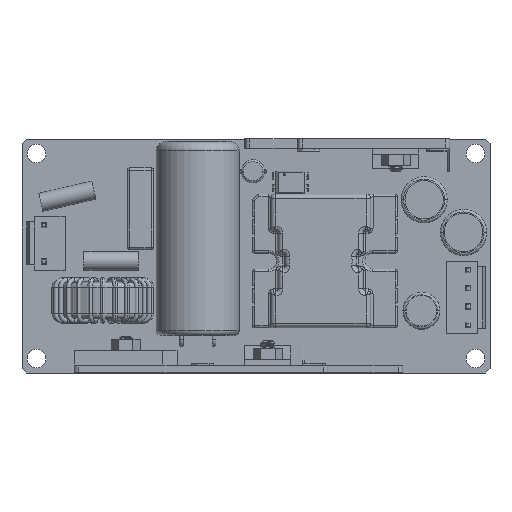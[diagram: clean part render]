
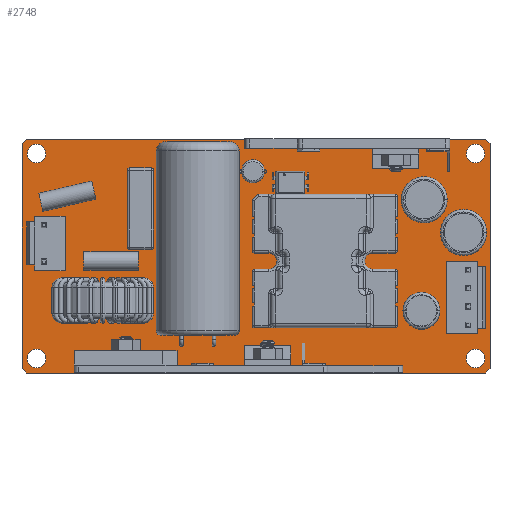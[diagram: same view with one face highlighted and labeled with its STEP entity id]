
A CAD part, top view. The second image highlights one B-rep face of the part: STEP entity #2748.
In plain terms, the highlighted planar face has unit normal (0, 0, 1).
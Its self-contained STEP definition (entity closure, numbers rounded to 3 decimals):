
#2748=ADVANCED_FACE('SPLSRF1',(#6115,#6116,#6117,#6118,#6119),#4235,.T.);
#4235=PLANE('',#24014);
#4824=CIRCLE('',#24006,2.);
#4825=CIRCLE('',#24007,2.);
#4826=CIRCLE('',#24008,2.);
#4827=CIRCLE('',#24009,2.);
#4828=CIRCLE('',#24010,2.);
#4829=CIRCLE('',#24011,2.);
#4830=CIRCLE('',#24012,2.);
#4831=CIRCLE('',#24013,2.);
#6115=FACE_BOUND('',#6245,.T.);
#6116=FACE_BOUND('',#6246,.T.);
#6117=FACE_BOUND('',#6247,.T.);
#6118=FACE_BOUND('',#6248,.T.);
#6119=FACE_BOUND('',#6249,.T.);
#6245=EDGE_LOOP('',(#7815,#7816,#7817,#7818,#7819,#7820,#7821,#7822));
#6246=EDGE_LOOP('',(#7823,#7824));
#6247=EDGE_LOOP('',(#7825,#7826));
#6248=EDGE_LOOP('',(#7827,#7828));
#6249=EDGE_LOOP('',(#7829,#7830));
#7815=ORIENTED_EDGE('',*,*,#16714,.T.);
#7816=ORIENTED_EDGE('',*,*,#16715,.T.);
#7817=ORIENTED_EDGE('',*,*,#16716,.T.);
#7818=ORIENTED_EDGE('',*,*,#16717,.T.);
#7819=ORIENTED_EDGE('',*,*,#16718,.T.);
#7820=ORIENTED_EDGE('',*,*,#16719,.T.);
#7821=ORIENTED_EDGE('',*,*,#16720,.T.);
#7822=ORIENTED_EDGE('',*,*,#16721,.T.);
#7823=ORIENTED_EDGE('',*,*,#16722,.F.);
#7824=ORIENTED_EDGE('',*,*,#16723,.F.);
#7825=ORIENTED_EDGE('',*,*,#16724,.F.);
#7826=ORIENTED_EDGE('',*,*,#16725,.F.);
#7827=ORIENTED_EDGE('',*,*,#16726,.F.);
#7828=ORIENTED_EDGE('',*,*,#16727,.F.);
#7829=ORIENTED_EDGE('',*,*,#16728,.F.);
#7830=ORIENTED_EDGE('',*,*,#16729,.F.);
#14673=VERTEX_POINT('',#34191);
#14674=VERTEX_POINT('',#34192);
#14675=VERTEX_POINT('',#34194);
#14676=VERTEX_POINT('',#34196);
#14677=VERTEX_POINT('',#34198);
#14678=VERTEX_POINT('',#34200);
#14679=VERTEX_POINT('',#34202);
#14680=VERTEX_POINT('',#34204);
#14681=VERTEX_POINT('',#34207);
#14682=VERTEX_POINT('',#34208);
#14683=VERTEX_POINT('',#34211);
#14684=VERTEX_POINT('',#34212);
#14685=VERTEX_POINT('',#34215);
#14686=VERTEX_POINT('',#34216);
#14687=VERTEX_POINT('',#34219);
#14688=VERTEX_POINT('',#34220);
#16714=EDGE_CURVE('LINE1',#14673,#14674,#20143,.T.);
#16715=EDGE_CURVE('LINE8',#14674,#14675,#20144,.T.);
#16716=EDGE_CURVE('LINE7',#14675,#14676,#20145,.T.);
#16717=EDGE_CURVE('LINE6',#14676,#14677,#20146,.T.);
#16718=EDGE_CURVE('LINE5',#14677,#14678,#20147,.T.);
#16719=EDGE_CURVE('LINE4',#14678,#14679,#20148,.T.);
#16720=EDGE_CURVE('LINE3',#14679,#14680,#20149,.T.);
#16721=EDGE_CURVE('LINE2',#14680,#14673,#20150,.T.);
#16722=EDGE_CURVE('ARC1',#14681,#14682,#4824,.T.);
#16723=EDGE_CURVE('ARC2',#14682,#14681,#4825,.T.);
#16724=EDGE_CURVE('ARC3',#14683,#14684,#4826,.T.);
#16725=EDGE_CURVE('ARC4',#14684,#14683,#4827,.T.);
#16726=EDGE_CURVE('ARC5',#14685,#14686,#4828,.T.);
#16727=EDGE_CURVE('ARC6',#14686,#14685,#4829,.T.);
#16728=EDGE_CURVE('ARC7',#14687,#14688,#4830,.T.);
#16729=EDGE_CURVE('ARC8',#14688,#14687,#4831,.T.);
#20143=LINE('',#34190,#22074);
#20144=LINE('',#34193,#22075);
#20145=LINE('',#34195,#22076);
#20146=LINE('',#34197,#22077);
#20147=LINE('',#34199,#22078);
#20148=LINE('',#34201,#22079);
#20149=LINE('',#34203,#22080);
#20150=LINE('',#34205,#22081);
#22074=VECTOR('',#26758,1.);
#22075=VECTOR('',#26759,1.);
#22076=VECTOR('',#26760,1.);
#22077=VECTOR('',#26761,1.);
#22078=VECTOR('',#26762,1.);
#22079=VECTOR('',#26763,1.);
#22080=VECTOR('',#26764,1.);
#22081=VECTOR('',#26765,1.);
#24006=AXIS2_PLACEMENT_3D('',#34206,#26766,#26767);
#24007=AXIS2_PLACEMENT_3D('',#34209,#26768,#26769);
#24008=AXIS2_PLACEMENT_3D('',#34210,#26770,#26771);
#24009=AXIS2_PLACEMENT_3D('',#34213,#26772,#26773);
#24010=AXIS2_PLACEMENT_3D('',#34214,#26774,#26775);
#24011=AXIS2_PLACEMENT_3D('',#34217,#26776,#26777);
#24012=AXIS2_PLACEMENT_3D('',#34218,#26778,#26779);
#24013=AXIS2_PLACEMENT_3D('',#34221,#26780,#26781);
#24014=AXIS2_PLACEMENT_3D('',#34222,#26782,#26783);
#26758=DIRECTION('',(-0.707,-0.707,0.));
#26759=DIRECTION('',(0.,-1.,0.));
#26760=DIRECTION('',(0.707,-0.707,0.));
#26761=DIRECTION('',(1.,0.,0.));
#26762=DIRECTION('',(0.707,0.707,0.));
#26763=DIRECTION('',(0.,1.,0.));
#26764=DIRECTION('',(-0.707,0.707,0.));
#26765=DIRECTION('',(-1.,0.,0.));
#26766=DIRECTION('',(0.,0.,1.));
#26767=DIRECTION('',(1.,0.,0.));
#26768=DIRECTION('',(0.,0.,1.));
#26769=DIRECTION('',(-1.,0.,0.));
#26770=DIRECTION('',(0.,0.,1.));
#26771=DIRECTION('',(1.,0.,0.));
#26772=DIRECTION('',(0.,0.,1.));
#26773=DIRECTION('',(-1.,0.,0.));
#26774=DIRECTION('',(0.,0.,1.));
#26775=DIRECTION('',(1.,0.,0.));
#26776=DIRECTION('',(0.,0.,1.));
#26777=DIRECTION('',(-1.,0.,0.));
#26778=DIRECTION('',(0.,0.,1.));
#26779=DIRECTION('',(1.,0.,0.));
#26780=DIRECTION('',(0.,0.,1.));
#26781=DIRECTION('',(-1.,0.,0.));
#26782=DIRECTION('',(0.,0.,1.));
#26783=DIRECTION('',(1.,0.,0.));
#34190=CARTESIAN_POINT('',(1.,50.8,0.));
#34191=CARTESIAN_POINT('',(1.,50.8,0.));
#34192=CARTESIAN_POINT('',(0.,49.8,0.));
#34193=CARTESIAN_POINT('',(0.,49.8,0.));
#34194=CARTESIAN_POINT('',(0.,1.,0.));
#34195=CARTESIAN_POINT('',(0.,1.,0.));
#34196=CARTESIAN_POINT('',(1.,0.,0.));
#34197=CARTESIAN_POINT('',(1.,0.,0.));
#34198=CARTESIAN_POINT('',(100.6,0.,0.));
#34199=CARTESIAN_POINT('',(100.6,0.,0.));
#34200=CARTESIAN_POINT('',(101.6,1.,0.));
#34201=CARTESIAN_POINT('',(101.6,1.,0.));
#34202=CARTESIAN_POINT('',(101.6,49.8,0.));
#34203=CARTESIAN_POINT('',(101.6,49.8,0.));
#34204=CARTESIAN_POINT('',(100.6,50.8,0.));
#34205=CARTESIAN_POINT('',(100.6,50.8,0.));
#34206=CARTESIAN_POINT('',(3.15,47.65,0.));
#34207=CARTESIAN_POINT('',(5.15,47.65,0.));
#34208=CARTESIAN_POINT('',(1.15,47.65,0.));
#34209=CARTESIAN_POINT('',(3.15,47.65,0.));
#34210=CARTESIAN_POINT('',(98.45,47.65,0.));
#34211=CARTESIAN_POINT('',(100.45,47.65,0.));
#34212=CARTESIAN_POINT('',(96.45,47.65,0.));
#34213=CARTESIAN_POINT('',(98.45,47.65,0.));
#34214=CARTESIAN_POINT('',(98.45,3.15,0.));
#34215=CARTESIAN_POINT('',(100.45,3.15,0.));
#34216=CARTESIAN_POINT('',(96.45,3.15,0.));
#34217=CARTESIAN_POINT('',(98.45,3.15,0.));
#34218=CARTESIAN_POINT('',(3.15,3.15,0.));
#34219=CARTESIAN_POINT('',(5.15,3.15,0.));
#34220=CARTESIAN_POINT('',(1.15,3.15,0.));
#34221=CARTESIAN_POINT('',(3.15,3.15,0.));
#34222=CARTESIAN_POINT('',(-2.032,-1.016,0.));
